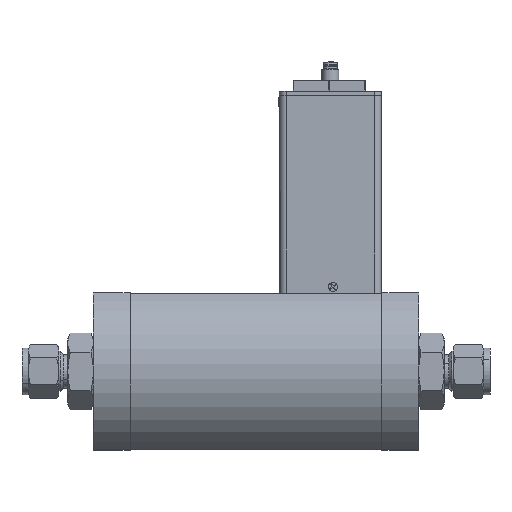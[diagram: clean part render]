
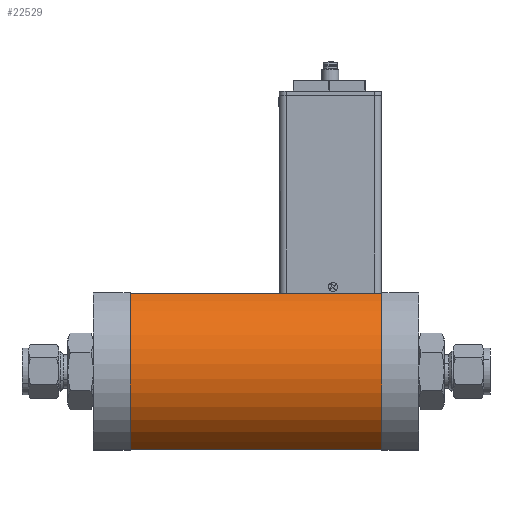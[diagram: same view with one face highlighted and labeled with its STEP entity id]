
A CAD part, top view. The second image highlights one B-rep face of the part: STEP entity #22529.
In plain terms, the highlighted cylindrical face has radius 42 mm (diameter 84 mm), a partial arc.
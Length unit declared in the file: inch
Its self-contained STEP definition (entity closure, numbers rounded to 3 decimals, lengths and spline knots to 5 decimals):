
#1501 = CARTESIAN_POINT ( 'NONE',  ( -2.3622, 2.93701, 0.77627 ) ) ;
#3562 = FACE_OUTER_BOUND ( 'NONE', #50006, .T. ) ;
#12196 = CARTESIAN_POINT ( 'NONE',  ( -2.3622, 1.4685, 0.0162 ) ) ;
#17129 = EDGE_CURVE ( 'NONE', #44380, #49551, #54959, .T. ) ;
#20219 = CARTESIAN_POINT ( 'NONE',  ( -2.3622, 0., 0.77627 ) ) ;
#22040 = CARTESIAN_POINT ( 'NONE',  ( 2.3622, 0., 0.77627 ) ) ;
#22075 = CARTESIAN_POINT ( 'NONE',  ( -2.3622, 1.4685, 0.0162 ) ) ;
#22515 = ORIENTED_EDGE ( 'NONE', *, *, #54568, .T. ) ;
#22529 = ADVANCED_FACE ( 'NONE', ( #3562 ), #60005, .T. ) ;
#23201 = ORIENTED_EDGE ( 'NONE', *, *, #35774, .F. ) ;
#24589 = ORIENTED_EDGE ( 'NONE', *, *, #57723, .T. ) ;
#27104 = LINE ( 'NONE', #30799, #43546 ) ;
#27216 = CARTESIAN_POINT ( 'NONE',  ( 2.3622, 2.93701, 0.77627 ) ) ;
#29890 = CARTESIAN_POINT ( 'NONE',  ( 2.3622, 1.4685, 0.0162 ) ) ;
#30799 = CARTESIAN_POINT ( 'NONE',  ( -12.3622, 2.93701, 0.77627 ) ) ;
#35750 = DIRECTION ( 'NONE',  ( -1., 0., 0. ) ) ;
#35774 = EDGE_CURVE ( 'NONE', #45322, #40180, #52111, .T. ) ;
#35935 = DIRECTION ( 'NONE',  ( 0., 1., 0. ) ) ;
#36658 = DIRECTION ( 'NONE',  ( -1., 0., 0. ) ) ;
#38098 = LINE ( 'NONE', #52287, #44421 ) ;
#40180 = VERTEX_POINT ( 'NONE', #1501 ) ;
#40260 = DIRECTION ( 'NONE',  ( 0., 1., 0. ) ) ;
#40878 = DIRECTION ( 'NONE',  ( 1., 0., 0. ) ) ;
#43546 = VECTOR ( 'NONE', #36658, 39.37008 ) ;
#44380 = VERTEX_POINT ( 'NONE', #22040 ) ;
#44421 = VECTOR ( 'NONE', #55691, 39.37008 ) ;
#44587 = DIRECTION ( 'NONE',  ( -1., 0., 0. ) ) ;
#45322 = VERTEX_POINT ( 'NONE', #20219 ) ;
#47175 = AXIS2_PLACEMENT_3D ( 'NONE', #12196, #44587, #35935 ) ;
#49551 = VERTEX_POINT ( 'NONE', #27216 ) ;
#50006 = EDGE_LOOP ( 'NONE', ( #24589, #23201, #22515, #59815 ) ) ;
#52111 = CIRCLE ( 'NONE', #47175, 1.65354 ) ;
#52287 = CARTESIAN_POINT ( 'NONE',  ( -2.3622, 0., 0.77627 ) ) ;
#54568 = EDGE_CURVE ( 'NONE', #45322, #44380, #38098, .T. ) ;
#54959 = CIRCLE ( 'NONE', #56972, 1.65354 ) ;
#55691 = DIRECTION ( 'NONE',  ( 1., 0., 0. ) ) ;
#56972 = AXIS2_PLACEMENT_3D ( 'NONE', #29890, #35750, #58603 ) ;
#57723 = EDGE_CURVE ( 'NONE', #49551, #40180, #27104, .T. ) ;
#58156 = AXIS2_PLACEMENT_3D ( 'NONE', #22075, #40878, #40260 ) ;
#58603 = DIRECTION ( 'NONE',  ( 0., 1., 0. ) ) ;
#59815 = ORIENTED_EDGE ( 'NONE', *, *, #17129, .T. ) ;
#60005 = CYLINDRICAL_SURFACE ( 'NONE', #58156, 1.65354 ) ;
